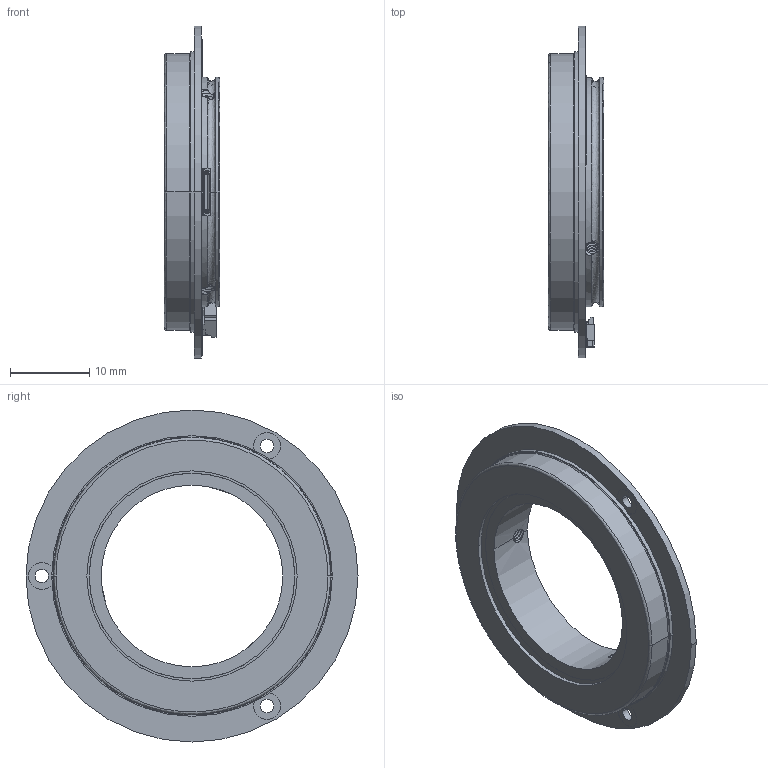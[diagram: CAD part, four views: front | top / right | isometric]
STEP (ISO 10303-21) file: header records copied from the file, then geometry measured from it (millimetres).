
FILE_DESCRIPTION (( 'STEP AP214' ), '1' );
FILE_NAME ('MBS-23-42¸üÐÂ.STEP', '2024-07-16T01:02:05', ( '' ), ( '' ), 'SwSTEP 2.0', 'SolidWorks 2016', '' );
FILE_SCHEMA (( 'AUTOMOTIVE_DESIGN' ));
Length unit declared in the file: millimetre
Products named in the file (1): MBS-23-42載陔
Bounding box: 7.01 x 42 x 42 mm (x, y, z)
Volume: 2446 mm3; surface area: 5729.5 mm2
Topology: 6 solids, 32 shells, 798 faces, 2055 edges, 1354 vertices
Faces by surface type: plane 559, bspline 161, cylinder 69, cone 9
Entity records: 62601 total; most frequent: CARTESIAN_POINT 41241, ORIENTED_EDGE 4104, DIRECTION 3111, EDGE_CURVE 2052, LINE 1529, VECTOR 1529, VERTEX_POINT 1354, EDGE_LOOP 862
